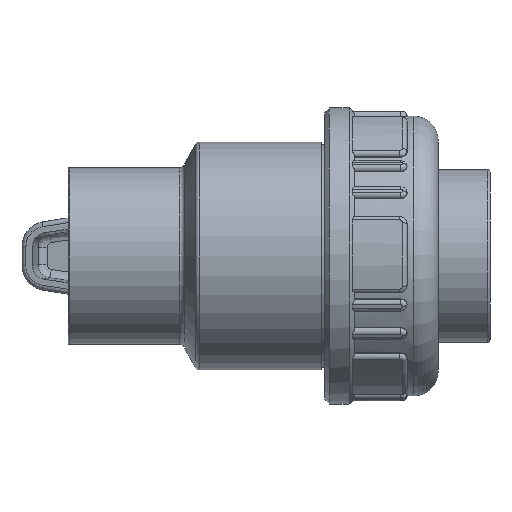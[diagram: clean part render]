
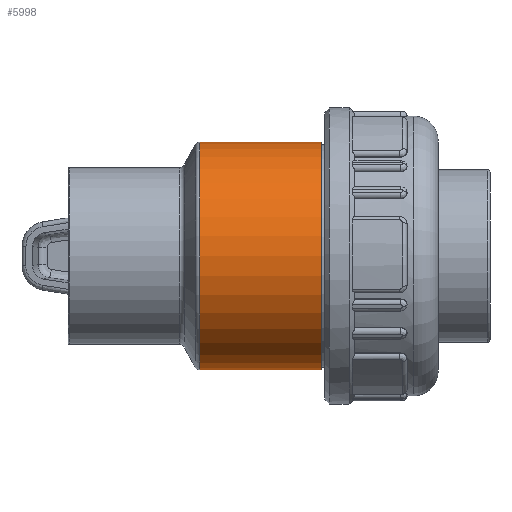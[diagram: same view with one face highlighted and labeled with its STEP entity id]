
A CAD part, left-side view. The second image highlights one B-rep face of the part: STEP entity #5998.
In plain terms, the highlighted cylindrical face has radius 23.075 mm (diameter 46.15 mm), a full revolution.
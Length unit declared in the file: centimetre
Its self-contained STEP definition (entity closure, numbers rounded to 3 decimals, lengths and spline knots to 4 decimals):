
#216=CYLINDRICAL_SURFACE('',#6429,2.3075);
#306=FACE_BOUND('',#1088,.T.);
#307=FACE_BOUND('',#1089,.T.);
#393=CIRCLE('',#6425,2.3075);
#396=CIRCLE('',#6430,2.3075);
#723=FACE_OUTER_BOUND('',#1087,.T.);
#1087=EDGE_LOOP('',(#4111));
#1088=EDGE_LOOP('',(#4112));
#1089=EDGE_LOOP('',(#4113));
#2075=B_SPLINE_CURVE_WITH_KNOTS('',3,(#9634,#9635,#9636,#9637,#9638,#9639,
#9640,#9641,#9642,#9643,#9644,#9645,#9646,#9647,#9648,#9649,#9650,#9651),
 .UNSPECIFIED.,.T.,.F.,(4,1,1,1,1,1,1,1,1,1,1,1,1,1,1,4),(-6.6874,
-6.2097,-5.7321,-5.2544,-4.7767,
-4.299,-3.8214,-3.5029,-3.1845,
-2.866,-2.5476,-1.9107,-1.433,
-0.9553,-0.4777,0.),.UNSPECIFIED.);
#2403=VERTEX_POINT('',#9623);
#2406=VERTEX_POINT('',#9631);
#2407=VERTEX_POINT('',#9633);
#3035=EDGE_CURVE('',#2403,#2403,#393,.T.);
#3038=EDGE_CURVE('',#2406,#2406,#396,.T.);
#3039=EDGE_CURVE('',#2407,#2407,#2075,.T.);
#4111=ORIENTED_EDGE('',*,*,#3038,.T.);
#4112=ORIENTED_EDGE('',*,*,#3039,.F.);
#4113=ORIENTED_EDGE('',*,*,#3035,.F.);
#5998=ADVANCED_FACE('',(#723,#306,#307),#216,.T.);
#6425=AXIS2_PLACEMENT_3D('',#9624,#7251,#7252);
#6429=AXIS2_PLACEMENT_3D('',#9630,#7259,#7260);
#6430=AXIS2_PLACEMENT_3D('',#9632,#7261,#7262);
#7251=DIRECTION('center_axis',(0.,1.,0.));
#7252=DIRECTION('ref_axis',(1.,0.,0.));
#7259=DIRECTION('center_axis',(0.,1.,0.));
#7260=DIRECTION('ref_axis',(-1.,0.,0.));
#7261=DIRECTION('center_axis',(0.,1.,0.));
#7262=DIRECTION('ref_axis',(-1.,0.,0.));
#9623=CARTESIAN_POINT('',(-2.3075,1.3304,0.));
#9624=CARTESIAN_POINT('Origin',(0.,1.3304,
0.));
#9630=CARTESIAN_POINT('Origin',(0.,-0.51,0.));
#9631=CARTESIAN_POINT('',(2.3075,-1.13,0.));
#9632=CARTESIAN_POINT('Origin',(0.,-1.13,0.));
#9633=CARTESIAN_POINT('',(2.0254,0.,1.1056));
#9634=CARTESIAN_POINT('Ctrl Pts',(2.0252,0.,
1.1058));
#9635=CARTESIAN_POINT('Ctrl Pts',(2.0252,-0.1698,1.1058));
#9636=CARTESIAN_POINT('Ctrl Pts',(2.0711,-0.5093,1.0264));
#9637=CARTESIAN_POINT('Ctrl Pts',(2.2067,-0.9012,0.7154));
#9638=CARTESIAN_POINT('Ctrl Pts',(2.3115,-1.1293,0.2607));
#9639=CARTESIAN_POINT('Ctrl Pts',(2.3117,-1.1291,-0.2608));
#9640=CARTESIAN_POINT('Ctrl Pts',(2.2064,-0.9016,-0.7153));
#9641=CARTESIAN_POINT('Ctrl Pts',(2.0865,-0.5521,-0.9917));
#9642=CARTESIAN_POINT('Ctrl Pts',(2.0232,-0.1729,-1.1098));
#9643=CARTESIAN_POINT('Ctrl Pts',(2.0232,0.1729,-1.1099));
#9644=CARTESIAN_POINT('Ctrl Pts',(2.0774,0.4979,-1.0083));
#9645=CARTESIAN_POINT('Ctrl Pts',(2.1884,0.864,-0.7612));
#9646=CARTESIAN_POINT('Ctrl Pts',(2.312,1.129,-0.3192));
#9647=CARTESIAN_POINT('Ctrl Pts',(2.3114,1.1294,0.2609));
#9648=CARTESIAN_POINT('Ctrl Pts',(2.2067,0.901,0.7151));
#9649=CARTESIAN_POINT('Ctrl Pts',(2.0711,0.5094,1.0265));
#9650=CARTESIAN_POINT('Ctrl Pts',(2.0252,0.1698,1.1058));
#9651=CARTESIAN_POINT('Ctrl Pts',(2.0252,0.,
1.1058));
